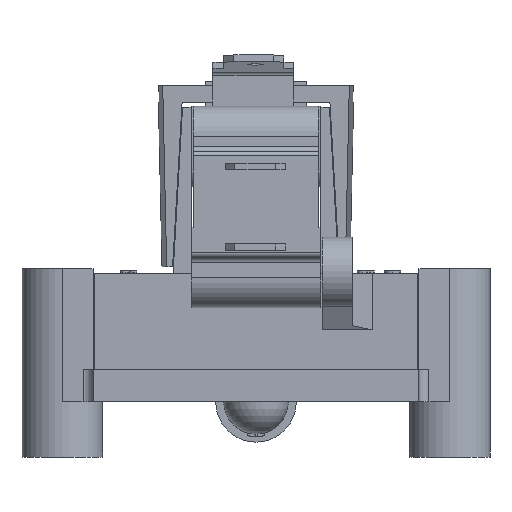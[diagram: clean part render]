
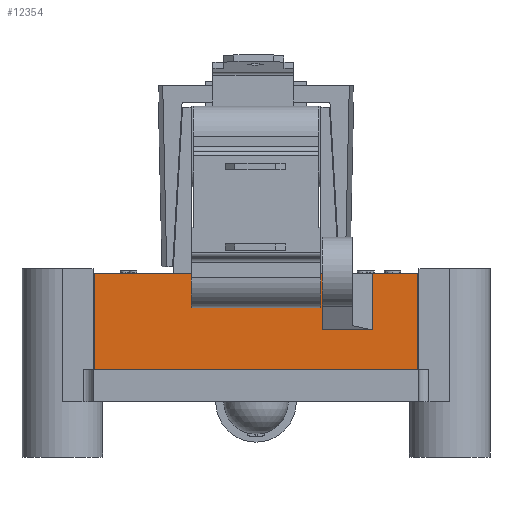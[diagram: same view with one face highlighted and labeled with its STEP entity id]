
A CAD part, front view. The second image highlights one B-rep face of the part: STEP entity #12354.
In plain terms, the highlighted planar face has unit normal (0, -1, 0).
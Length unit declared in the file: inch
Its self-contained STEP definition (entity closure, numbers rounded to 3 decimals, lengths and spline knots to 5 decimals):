
#126=CARTESIAN_POINT('',(-0.5,-0.5,-0.298));
#127=VERTEX_POINT('',#126);
#142=CARTESIAN_POINT('',(0.5,-0.5,-0.298));
#143=VERTEX_POINT('',#142);
#150=CARTESIAN_POINT('',(-0.5,-0.5,-0.298));
#151=DIRECTION('',(1.0,0.0,0.0));
#152=VECTOR('',#151,1.);
#153=LINE('',#150,#152);
#154=EDGE_CURVE('',#127,#143,#153,.T.);
#241=CARTESIAN_POINT('',(0.5,-0.5,0.0));
#242=VERTEX_POINT('',#241);
#249=CARTESIAN_POINT('',(0.5,-0.5,0.0));
#250=DIRECTION('',(0.0,0.0,-1.0));
#251=VECTOR('',#250,0.298);
#252=LINE('',#249,#251);
#253=EDGE_CURVE('',#242,#143,#252,.T.);
#264=CARTESIAN_POINT('',(-0.5,-0.5,0.0));
#265=VERTEX_POINT('',#264);
#266=CARTESIAN_POINT('',(-0.5,-0.5,0.0));
#267=DIRECTION('',(0.0,0.0,-1.0));
#268=VECTOR('',#267,0.298);
#269=LINE('',#266,#268);
#270=EDGE_CURVE('',#265,#127,#269,.T.);
#1097=CARTESIAN_POINT('',(0.205,-0.5,-0.17539));
#1098=VERTEX_POINT('',#1097);
#1099=CARTESIAN_POINT('',(0.205,-0.5,0.));
#1100=VERTEX_POINT('',#1099);
#1101=CARTESIAN_POINT('',(0.205,-0.5,-0.17539));
#1102=DIRECTION('',(0.0,0.0,1.0));
#1103=VECTOR('',#1102,0.17539);
#1104=LINE('',#1101,#1103);
#1105=EDGE_CURVE('',#1098,#1100,#1104,.T.);
#1204=CARTESIAN_POINT('',(0.36,-0.5,-0.17539));
#1205=VERTEX_POINT('',#1204);
#1206=CARTESIAN_POINT('',(0.36,-0.5,-0.17539));
#1207=DIRECTION('',(-1.0,0.0,0.0));
#1208=VECTOR('',#1207,0.155);
#1209=LINE('',#1206,#1208);
#1210=EDGE_CURVE('',#1205,#1098,#1209,.T.);
#1227=CARTESIAN_POINT('',(0.36,-0.5,0.0));
#1228=VERTEX_POINT('',#1227);
#1229=CARTESIAN_POINT('',(0.36,-0.5,-0.17539));
#1230=DIRECTION('',(0.0,0.0,1.0));
#1231=VECTOR('',#1230,0.17539);
#1232=LINE('',#1229,#1231);
#1233=EDGE_CURVE('',#1205,#1228,#1232,.T.);
#1630=CARTESIAN_POINT('',(0.205,-0.5,0.0));
#1631=DIRECTION('',(-1.0,0.0,0.0));
#1632=VECTOR('',#1631,0.705);
#1633=LINE('',#1630,#1632);
#1634=EDGE_CURVE('',#1100,#265,#1633,.T.);
#1640=CARTESIAN_POINT('',(0.5,-0.5,0.0));
#1641=DIRECTION('',(-1.0,0.0,0.0));
#1642=VECTOR('',#1641,0.14);
#1643=LINE('',#1640,#1642);
#1644=EDGE_CURVE('',#242,#1228,#1643,.T.);
#12339=CARTESIAN_POINT('',(-0.5,-0.5,0.0));
#12340=DIRECTION('',(0.0,-1.0,0.0));
#12341=DIRECTION('',(0.0,0.0,-1.0));
#12342=AXIS2_PLACEMENT_3D('',#12339,#12340,#12341);
#12343=PLANE('',#12342);
#12344=ORIENTED_EDGE('',*,*,#1634,.T.);
#12345=ORIENTED_EDGE('',*,*,#270,.T.);
#12346=ORIENTED_EDGE('',*,*,#154,.T.);
#12347=ORIENTED_EDGE('',*,*,#253,.F.);
#12348=ORIENTED_EDGE('',*,*,#1644,.T.);
#12349=ORIENTED_EDGE('',*,*,#1233,.F.);
#12350=ORIENTED_EDGE('',*,*,#1210,.T.);
#12351=ORIENTED_EDGE('',*,*,#1105,.T.);
#12352=EDGE_LOOP('',(#12344,#12345,#12346,#12347,#12348,#12349,#12350,#12351));
#12353=FACE_OUTER_BOUND('',#12352,.T.);
#12354=ADVANCED_FACE('',(#12353),#12343,.T.);
